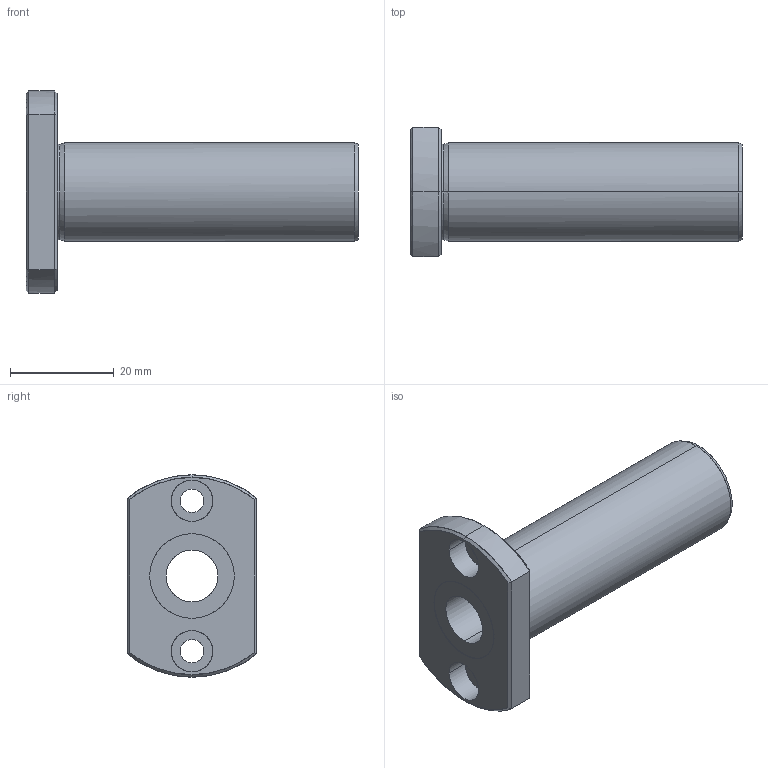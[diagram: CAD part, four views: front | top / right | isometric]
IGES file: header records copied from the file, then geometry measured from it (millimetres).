
Global section: file name: No Iges File Name specified; native system: AutoDesk Inventor R10; preprocessor: AutoDesk Inventor Iges Exporter R10; author: No Author specified; organization: No Organization specified; date: 20101216.154433; units: millimetre
Bounding box: 64 x 25 x 39 mm (x, y, z)
Surface area: 7942.9 mm2 (no closed solid volume)
Topology: 0 solids, 0 shells, 47 faces, 280 edges, 280 vertices
Faces by surface type: bspline 47
